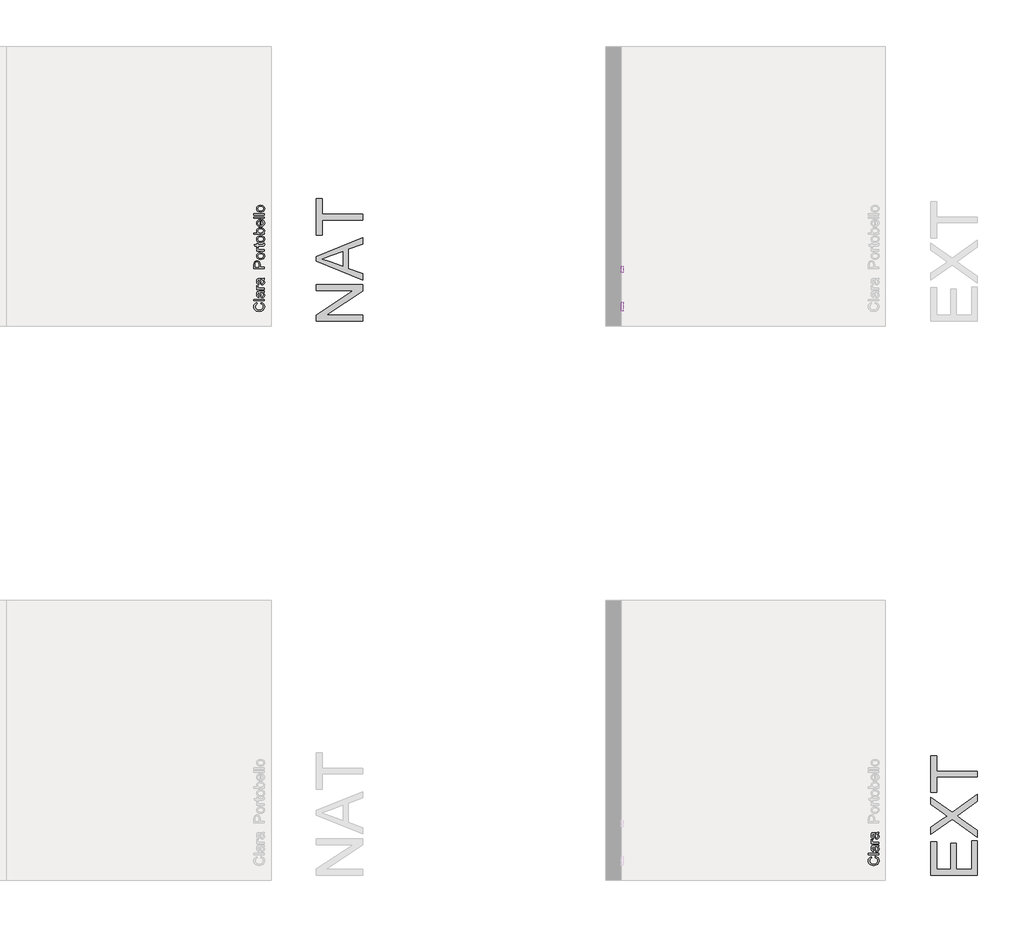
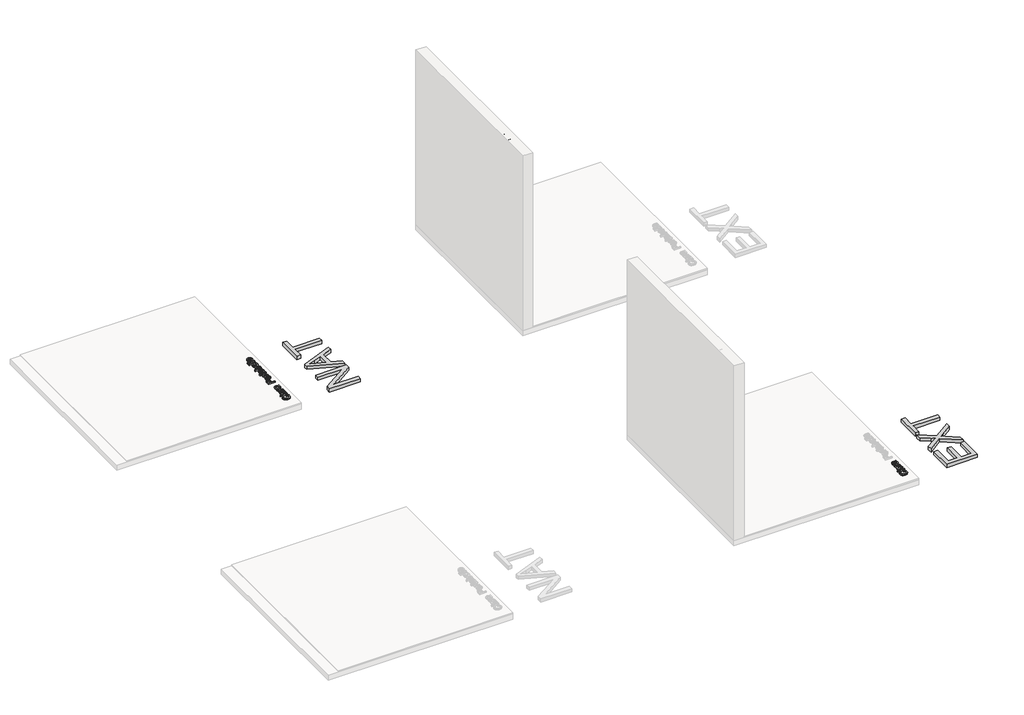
# One storey, part 4 of 6: 7 proxies.
"""IFC4 building model written with IfcOpenShell, lengths in millimetres."""

from ifc_helpers import new_model, si_unit, frame, origin, origin_with_axes, place, context, project, spatial, polyline, outline, extrude, element, save

model = new_model("IFC4")

# Units and contexts
model_context = context("Model", 3, world=origin())
ifc_project = project(units=[si_unit("LENGTHUNIT", "METRE", prefix="MILLI")], contexts=[model_context])

# Site, building, storey
site = spatial("IfcSite", under=ifc_project)
building = spatial("IfcBuilding", under=site)
storey = spatial("IfcBuildingStorey", under=building, Name="PORTOBELLO - SHOWROOM", Elevation=0.0)

# Proxies
placement = place(None, origin())
element("IfcBuildingElementProxy", 1, Name="10mm Arial", ObjectType="10mm Arial", at=placement, inside=storey, context=model_context, shape_type="SweptSolid", body=[
    extrude(outline(polyline([(153092.6805155, -7154.2321856), (153095.9178771, -7141.6751468), (153110.5503834, -7147.4692882), (153121.2404211, -7156.5621049), (153127.7795235, -7168.506007), (153129.9592243, -7182.8534048), (153128.3098867, -7197.4184661), (153123.3618739, -7208.9852892), (153115.2868641, -7217.8512453), (153104.2565356, -7224.3137056), (153077.40115, -7229.5744182), (153062.7533152, -7228.0875618), (153050.1043059, -7223.6269926), (153039.8557267, -7216.4257025), (153032.409182, -7206.7166835), (153027.8750364, -7195.2019771), (153026.3636545, -7182.5836247), (153028.3195604, -7168.815641), (153034.1872783, -7157.4327589), (153043.6050573, -7148.7905977), (153056.211147, -7143.2447766), (153059.2032539, -7155.8018154), (153043.7644729, -7166.1025113), (153038.9206933, -7183.074134), (153044.2917704, -7202.7190325), (153058.7127446, -7213.816806), (153077.3766245, -7217.0173794), (153099.0080858, -7213.2281949), (153112.8281861, -7201.4314455), (153117.4021856, -7184.1042036), (153115.8448185, -7173.6226324), (153111.1727171, -7164.8885007), (153103.4349325, -7158.2942159), (153092.6805155, -7154.2321856)])), frame((0.0, 0.0, 17.0), z_axis=(0.0, 0.0, 1.0), x_axis=(1.0, 0.0, 0.0)), (0.0, 0.0, 1.0), 20.0),
    extrude(outline(polyline([(153128.3895945, -7125.9788483), (153027.9332844, -7125.9788483), (153027.9332844, -7113.4218096), (153128.3895945, -7113.4218096), (153128.3895945, -7125.9788483)])), frame((0.0, 0.0, 17.0), z_axis=(0.0, 0.0, 1.0), x_axis=(1.0, 0.0, 0.0)), (0.0, 0.0, 1.0), 20.0),
    extrude(outline(polyline([(153118.9718154, -7047.497356), (153127.4821522, -7059.6742501), (153129.9592243, -7073.1264684), (153128.4693023, -7083.6203023), (153123.999536, -7091.3611526), (153117.2121132, -7096.1344215), (153108.7692214, -7097.7255111), (153098.8364076, -7095.3220154), (153091.6259205, -7089.0067078), (153087.5056421, -7080.2143281), (153085.6171812, -7069.3495465), (153081.3006991, -7047.5709324), (153078.504796, -7047.497356), (153069.2341697, -7050.9554468), (153065.6044007, -7064.8368607), (153068.0201591, -7077.5410523), (153076.5918096, -7083.5988425), (153075.0221797, -7096.1558813), (153062.7594466, -7090.7234905), (153055.5734849, -7079.7851325), (153053.0473619, -7063.21818), (153055.2791793, -7048.0001281), (153060.8832484, -7039.4039521), (153069.4058479, -7035.5534539), (153080.3932569, -7034.9403173), (153096.0159789, -7034.9403173), (153117.8313812, -7034.3026551), (153128.3895945, -7031.8010576), (153128.3895945, -7044.3580963), (153118.9718154, -7047.497356)]), holes=[polyline([(153093.8577379, -7047.497356), (153097.7082361, -7067.7553912), (153099.7438498, -7078.5588592), (153103.0547878, -7083.4516897), (153107.8863046, -7085.1684723), (153114.6798588, -7081.4283387), (153117.4021856, -7070.4531925), (153114.397816, -7057.749001), (153107.1260152, -7049.5574952), (153097.4139305, -7047.5709324), (153093.8577379, -7047.497356)])]), frame((0.0, 0.0, 17.0), z_axis=(0.0, 0.0, 1.0), x_axis=(1.0, 0.0, 0.0)), (0.0, 0.0, 1.0), 20.0),
    extrude(outline(polyline([(153128.3895945, -7017.674389), (153054.6169917, -7017.674389), (153054.6169917, -7006.68698), (153065.5308243, -7006.68698), (153055.4753831, -6998.8878817), (153053.0473619, -6991.0397325), (153056.9223856, -6978.4336428), (153068.1795746, -6982.6274975), (153065.6044007, -6991.4566654), (153068.0814728, -6998.5567879), (153074.9486033, -7003.0817365), (153089.6148322, -7005.1173502), (153128.3895945, -7005.1173502), (153128.3895945, -7017.674389)])), frame((0.0, 0.0, 17.0), z_axis=(0.0, 0.0, 1.0), x_axis=(1.0, 0.0, 0.0)), (0.0, 0.0, 1.0), 20.0),
    extrude(outline(polyline([(153118.9718154, -6923.4965982), (153127.4821522, -6935.6734922), (153129.9592243, -6949.1257105), (153128.4693023, -6959.6195444), (153123.999536, -6967.3603947), (153117.2121132, -6972.1336636), (153108.7692214, -6973.7247533), (153098.8364076, -6971.3212576), (153091.6259205, -6965.00595), (153087.5056421, -6956.2135703), (153085.6171812, -6945.3487887), (153081.3006991, -6923.5701746), (153078.504796, -6923.4965982), (153069.2341697, -6926.9546889), (153065.6044007, -6940.8361029), (153068.0201591, -6953.5402945), (153076.5918096, -6959.5980846), (153075.0221797, -6972.1551234), (153062.7594466, -6966.7227326), (153055.5734849, -6955.7843746), (153053.0473619, -6939.2174221), (153055.2791793, -6923.9993702), (153060.8832484, -6915.4031943), (153069.4058479, -6911.5526961), (153080.3932569, -6910.9395594), (153096.0159789, -6910.9395594), (153117.8313812, -6910.3018973), (153128.3895945, -6907.8002997), (153128.3895945, -6920.3573385), (153118.9718154, -6923.4965982)]), holes=[polyline([(153093.8577379, -6923.4965982), (153097.7082361, -6943.7546334), (153099.7438498, -6954.5581013), (153103.0547878, -6959.4509319), (153107.8863046, -6961.1677145), (153114.6798588, -6957.4275809), (153117.4021856, -6946.4524347), (153114.397816, -6933.7482431), (153107.1260152, -6925.5567374), (153097.4139305, -6923.5701746), (153093.8577379, -6923.4965982)])]), frame((0.0, 0.0, 17.0), z_axis=(0.0, 0.0, 1.0), x_axis=(1.0, 0.0, 0.0)), (0.0, 0.0, 1.0), 20.0),
])
element("IfcBuildingElementProxy", 2, Name="10mm Arial", ObjectType="10mm Arial", at=placement, inside=storey, context=model_context, shape_type="SweptSolid", body=[
    extrude(outline(polyline([(-1802.1748639, 2563.7375666), (-1789.6178251, 2560.5002051), (-1795.4119666, 2545.8676987), (-1804.5047832, 2535.1776611), (-1816.4486853, 2528.6385586), (-1830.7960831, 2526.4588578), (-1845.3611445, 2528.1081954), (-1856.9279675, 2533.0562082), (-1865.7939236, 2541.131218), (-1872.256384, 2552.1615465), (-1877.5170965, 2579.0169322), (-1876.0302401, 2593.664767), (-1871.5696709, 2606.3137762), (-1864.3683809, 2616.5623555), (-1854.6593619, 2624.0089002), (-1843.1446554, 2628.5430458), (-1830.526303, 2630.0544276), (-1816.7583193, 2628.0985217), (-1805.3754373, 2622.2308039), (-1796.7332761, 2612.8130248), (-1791.187455, 2600.2069351), (-1803.7444938, 2597.2148282), (-1814.0451896, 2612.6536093), (-1831.0168123, 2617.4973889), (-1850.6617109, 2612.1263117), (-1861.7594844, 2597.7053375), (-1864.9600577, 2579.0414576), (-1861.1708732, 2557.4099963), (-1849.3741239, 2543.589896), (-1832.0468819, 2539.0158966), (-1821.5653107, 2540.5732637), (-1812.831179, 2545.245365), (-1806.2368943, 2552.9831497), (-1802.1748639, 2563.7375666)])), frame((150642.4628922, 0.0, 0.0), z_axis=(1.0, 0.0, 0.0), x_axis=(0.0, 1.0, 0.0)), (0.0, 0.0, 1.0), 20.0),
    extrude(outline(polyline([(150662.4628922, -1761.3644879), (150662.4628922, -1773.9215267), (150642.4628922, -1773.9215267), (150642.4628922, -1761.3644879), (150662.4628922, -1761.3644879)])), frame((0.0, 0.0, 2528.0284876), z_axis=(0.0, 0.0, 1.0), x_axis=(1.0, 0.0, 0.0)), (0.0, 0.0, 1.0), 100.4563101),
    extrude(outline(polyline([(-1695.4400344, 2537.4462667), (-1707.6169284, 2528.9359299), (-1721.0691467, 2526.4588578), (-1731.5629806, 2527.9487799), (-1739.3038309, 2532.4185461), (-1744.0770998, 2539.2059689), (-1745.6681894, 2547.6488607), (-1743.2646937, 2557.5816746), (-1736.9493862, 2564.7921617), (-1728.1570065, 2568.91244), (-1717.2922249, 2570.800901), (-1695.5136108, 2575.117383), (-1695.4400344, 2577.9132862), (-1698.8981251, 2587.1839125), (-1712.7795391, 2590.8136815), (-1725.4837306, 2588.3979231), (-1731.5415208, 2579.8262726), (-1744.0985596, 2581.3959024), (-1738.6661688, 2593.6586356), (-1727.7278108, 2600.8445972), (-1711.1608583, 2603.3707203), (-1695.9428064, 2601.1389028), (-1687.3466305, 2595.5348338), (-1683.4961323, 2587.0122342), (-1682.8829956, 2576.0248253), (-1682.8829956, 2560.4021032), (-1682.2453335, 2538.5867009), (-1679.7437359, 2528.0284876), (-1692.3007747, 2528.0284876), (-1695.4400344, 2537.4462667)]), holes=[polyline([(-1695.4400344, 2562.5603443), (-1715.6980696, 2558.709846), (-1726.5015375, 2556.6742323), (-1731.394368, 2553.3632944), (-1733.1111507, 2548.5317775), (-1729.3710171, 2541.7382233), (-1718.3958709, 2539.0158966), (-1705.6916793, 2542.0202662), (-1697.5001735, 2549.292067), (-1695.5136108, 2559.0041516), (-1695.4400344, 2562.5603443)])]), frame((150642.4628922, 0.0, 0.0), z_axis=(1.0, 0.0, 0.0), x_axis=(0.0, 1.0, 0.0)), (0.0, 0.0, 1.0), 20.0),
    extrude(outline(polyline([(-1665.6170673, 2528.0284876), (-1665.6170673, 2601.8010904), (-1654.6296584, 2601.8010904), (-1654.6296584, 2590.8872579), (-1646.8305601, 2600.9426991), (-1638.9824108, 2603.3707203), (-1626.3763211, 2599.4956966), (-1630.5701759, 2588.2385075), (-1639.3993438, 2590.8136815), (-1646.4994663, 2588.3366094), (-1651.0244148, 2581.4694788), (-1653.0600285, 2566.8032499), (-1653.0600285, 2528.0284876), (-1665.6170673, 2528.0284876)])), frame((150642.4628922, 0.0, 0.0), z_axis=(1.0, 0.0, 0.0), x_axis=(0.0, 1.0, 0.0)), (0.0, 0.0, 1.0), 20.0),
    extrude(outline(polyline([(-1571.4392765, 2537.4462667), (-1583.6161706, 2528.9359299), (-1597.0683889, 2526.4588578), (-1607.5622228, 2527.9487799), (-1615.3030731, 2532.4185461), (-1620.076342, 2539.2059689), (-1621.6674316, 2547.6488607), (-1619.2639359, 2557.5816746), (-1612.9486283, 2564.7921617), (-1604.1562486, 2568.91244), (-1593.291467, 2570.800901), (-1571.5128529, 2575.117383), (-1571.4392765, 2577.9132862), (-1574.8973673, 2587.1839125), (-1588.7787812, 2590.8136815), (-1601.4829728, 2588.3979231), (-1607.540763, 2579.8262726), (-1620.0978018, 2581.3959024), (-1614.665411, 2593.6586356), (-1603.727053, 2600.8445972), (-1587.1601005, 2603.3707203), (-1571.9420486, 2601.1389028), (-1563.3458726, 2595.5348338), (-1559.4953744, 2587.0122342), (-1558.8822378, 2576.0248253), (-1558.8822378, 2560.4021032), (-1558.2445756, 2538.5867009), (-1555.7429781, 2528.0284876), (-1568.3000168, 2528.0284876), (-1571.4392765, 2537.4462667)]), holes=[polyline([(-1571.4392765, 2562.5603443), (-1591.6973117, 2558.709846), (-1602.5007797, 2556.6742323), (-1607.3936102, 2553.3632944), (-1609.1103928, 2548.5317775), (-1605.3702592, 2541.7382233), (-1594.395113, 2539.0158966), (-1581.6909215, 2542.0202662), (-1573.4994157, 2549.292067), (-1571.5128529, 2559.0041516), (-1571.4392765, 2562.5603443)])]), frame((150642.4628922, 0.0, 0.0), z_axis=(1.0, 0.0, 0.0), x_axis=(0.0, 1.0, 0.0)), (0.0, 0.0, 1.0), 20.0),
])
element("IfcBuildingElementProxy", 3, Name="10mm Arial", ObjectType="10mm Arial", at=placement, inside=storey, context=model_context, shape_type="SweptSolid", body=[
    extrude(outline(polyline([(147162.6805155, -1804.2321856), (147165.9178771, -1791.6751468), (147180.5503834, -1797.4692882), (147191.2404211, -1806.5621049), (147197.7795235, -1818.506007), (147199.9592243, -1832.8534048), (147198.3098867, -1847.4184661), (147193.3618739, -1858.9852892), (147185.2868641, -1867.8512453), (147174.2565356, -1874.3137056), (147147.40115, -1879.5744182), (147132.7533152, -1878.0875618), (147120.1043059, -1873.6269926), (147109.8557267, -1866.4257025), (147102.409182, -1856.7166835), (147097.8750364, -1845.2019771), (147096.3636545, -1832.5836247), (147098.3195604, -1818.815641), (147104.1872783, -1807.4327589), (147113.6050573, -1798.7905977), (147126.211147, -1793.2447766), (147129.2032539, -1805.8018154), (147113.7644729, -1816.1025113), (147108.9206933, -1833.074134), (147114.2917704, -1852.7190325), (147128.7127446, -1863.816806), (147147.3766245, -1867.0173794), (147169.0080858, -1863.2281949), (147182.8281861, -1851.4314455), (147187.4021856, -1834.1042036), (147185.8448185, -1823.6226324), (147181.1727171, -1814.8885007), (147173.4349325, -1808.2942159), (147162.6805155, -1804.2321856)])), frame((0.0, 0.0, 17.0), z_axis=(0.0, 0.0, 1.0), x_axis=(1.0, 0.0, 0.0)), (0.0, 0.0, 1.0), 20.0),
    extrude(outline(polyline([(147198.3895945, -1775.9788483), (147097.9332844, -1775.9788483), (147097.9332844, -1763.4218096), (147198.3895945, -1763.4218096), (147198.3895945, -1775.9788483)])), frame((0.0, 0.0, 17.0), z_axis=(0.0, 0.0, 1.0), x_axis=(1.0, 0.0, 0.0)), (0.0, 0.0, 1.0), 20.0),
    extrude(outline(polyline([(147188.9718154, -1697.497356), (147197.4821522, -1709.6742501), (147199.9592243, -1723.1264684), (147198.4693023, -1733.6203023), (147193.999536, -1741.3611526), (147187.2121132, -1746.1344215), (147178.7692214, -1747.7255111), (147168.8364076, -1745.3220154), (147161.6259205, -1739.0067078), (147157.5056421, -1730.2143281), (147155.6171812, -1719.3495465), (147151.3006991, -1697.5709324), (147148.504796, -1697.497356), (147139.2341697, -1700.9554468), (147135.6044007, -1714.8368607), (147138.0201591, -1727.5410523), (147146.5918096, -1733.5988425), (147145.0221797, -1746.1558813), (147132.7594466, -1740.7234905), (147125.5734849, -1729.7851325), (147123.0473619, -1713.21818), (147125.2791793, -1698.0001281), (147130.8832484, -1689.4039521), (147139.4058479, -1685.5534539), (147150.3932569, -1684.9403173), (147166.0159789, -1684.9403173), (147187.8313812, -1684.3026551), (147198.3895945, -1681.8010576), (147198.3895945, -1694.3580963), (147188.9718154, -1697.497356)]), holes=[polyline([(147163.8577379, -1697.497356), (147167.7082361, -1717.7553912), (147169.7438498, -1728.5588592), (147173.0547878, -1733.4516897), (147177.8863046, -1735.1684723), (147184.6798588, -1731.4283387), (147187.4021856, -1720.4531925), (147184.397816, -1707.749001), (147177.1260152, -1699.5574952), (147167.4139305, -1697.5709324), (147163.8577379, -1697.497356)])]), frame((0.0, 0.0, 17.0), z_axis=(0.0, 0.0, 1.0), x_axis=(1.0, 0.0, 0.0)), (0.0, 0.0, 1.0), 20.0),
    extrude(outline(polyline([(147198.3895945, -1667.674389), (147124.6169917, -1667.674389), (147124.6169917, -1656.68698), (147135.5308243, -1656.68698), (147125.4753831, -1648.8878817), (147123.0473619, -1641.0397325), (147126.9223856, -1628.4336428), (147138.1795746, -1632.6274975), (147135.6044007, -1641.4566654), (147138.0814728, -1648.5567879), (147144.9486033, -1653.0817365), (147159.6148322, -1655.1173502), (147198.3895945, -1655.1173502), (147198.3895945, -1667.674389)])), frame((0.0, 0.0, 17.0), z_axis=(0.0, 0.0, 1.0), x_axis=(1.0, 0.0, 0.0)), (0.0, 0.0, 1.0), 20.0),
    extrude(outline(polyline([(147188.9718154, -1573.4965982), (147197.4821522, -1585.6734922), (147199.9592243, -1599.1257105), (147198.4693023, -1609.6195444), (147193.999536, -1617.3603947), (147187.2121132, -1622.1336636), (147178.7692214, -1623.7247533), (147168.8364076, -1621.3212576), (147161.6259205, -1615.00595), (147157.5056421, -1606.2135703), (147155.6171812, -1595.3487887), (147151.3006991, -1573.5701746), (147148.504796, -1573.4965982), (147139.2341697, -1576.9546889), (147135.6044007, -1590.8361029), (147138.0201591, -1603.5402945), (147146.5918096, -1609.5980846), (147145.0221797, -1622.1551234), (147132.7594466, -1616.7227326), (147125.5734849, -1605.7843746), (147123.0473619, -1589.2174221), (147125.2791793, -1573.9993702), (147130.8832484, -1565.4031943), (147139.4058479, -1561.5526961), (147150.3932569, -1560.9395594), (147166.0159789, -1560.9395594), (147187.8313812, -1560.3018973), (147198.3895945, -1557.8002997), (147198.3895945, -1570.3573385), (147188.9718154, -1573.4965982)]), holes=[polyline([(147163.8577379, -1573.4965982), (147167.7082361, -1593.7546334), (147169.7438498, -1604.5581013), (147173.0547878, -1609.4509319), (147177.8863046, -1611.1677145), (147184.6798588, -1607.4275809), (147187.4021856, -1596.4524347), (147184.397816, -1583.7482431), (147177.1260152, -1575.5567374), (147167.4139305, -1573.5701746), (147163.8577379, -1573.4965982)])]), frame((0.0, 0.0, 17.0), z_axis=(0.0, 0.0, 1.0), x_axis=(1.0, 0.0, 0.0)), (0.0, 0.0, 1.0), 20.0),
])
element("IfcBuildingElementProxy", 4, Name="10mm Arial", ObjectType="10mm Arial", at=placement, inside=storey, context=model_context, shape_type="SweptSolid", body=[
    extrude(outline(polyline([(147198.3895945, -1464.8655286), (147097.9332844, -1464.8655286), (147097.9332844, -1427.6358707), (147098.8897775, -1412.6262853), (147103.5864043, -1400.4248658), (147113.298489, -1392.5154029), (147126.995962, -1389.523296), (147138.8356309, -1391.5435813), (147148.7009997, -1397.6044372), (147155.3596638, -1408.9382683), (147157.5792185, -1426.7774794), (147157.5792185, -1452.3084899), (147198.3895945, -1452.3084899), (147198.3895945, -1464.8655286)]), holes=[polyline([(147145.0221797, -1452.3084899), (147145.0221797, -1426.0417154), (147140.4113921, -1407.5495138), (147134.8625053, -1403.4476295), (147127.4374204, -1402.0803348), (147117.0386226, -1405.3054336), (147111.3487144, -1413.7789822), (147110.4903231, -1426.336021), (147110.4903231, -1452.3084899), (147145.0221797, -1452.3084899)])]), frame((0.0, 0.0, 17.0), z_axis=(0.0, 0.0, 1.0), x_axis=(1.0, 0.0, 0.0)), (0.0, 0.0, 1.0), 20.0),
    extrude(outline(polyline([(147161.5032931, -1376.9662573), (147143.7161987, -1374.2500619), (147131.2143422, -1366.1014757), (147125.089107, -1356.0337717), (147123.0473619, -1343.979505), (147125.533631, -1330.7878698), (147132.9924385, -1320.2511163), (147144.8351731, -1313.3441319), (147160.4732235, -1311.0418037), (147182.8159234, -1315.1130311), (147195.4588013, -1326.9710941), (147199.9592243, -1343.979505), (147197.4821522, -1357.3305558), (147190.0509359, -1367.8550465), (147177.959881, -1374.6884546), (147161.5032931, -1376.9662573)]), holes=[polyline([(147161.4787677, -1364.4092185), (147172.8432556, -1362.9560846), (147180.9397252, -1358.596683), (147185.7865705, -1352.0361207), (147187.4021856, -1343.979505), (147185.7773734, -1335.9596775), (147180.902937, -1329.411378), (147172.6991685, -1325.0519764), (147161.0863602, -1323.5988425), (147150.052966, -1325.0611734), (147142.066861, -1329.4481662), (147137.2200158, -1336.0056628), (147135.6044007, -1343.979505), (147137.2138844, -1352.0361207), (147142.0423356, -1358.596683), (147150.1204111, -1362.9560846), (147161.4787677, -1364.4092185)])]), frame((0.0, 0.0, 17.0), z_axis=(0.0, 0.0, 1.0), x_axis=(1.0, 0.0, 0.0)), (0.0, 0.0, 1.0), 20.0),
    extrude(outline(polyline([(147198.3895945, -1296.9151351), (147124.6169917, -1296.9151351), (147124.6169917, -1285.9277262), (147135.5308243, -1285.9277262), (147125.4753831, -1278.1286279), (147123.0473619, -1270.2804787), (147126.9223856, -1257.674389), (147138.1795746, -1261.8682437), (147135.6044007, -1270.6974116), (147138.0814728, -1277.7975341), (147144.9486033, -1282.3224826), (147159.6148322, -1284.3580963), (147198.3895945, -1284.3580963), (147198.3895945, -1296.9151351)])), frame((0.0, 0.0, 17.0), z_axis=(0.0, 0.0, 1.0), x_axis=(1.0, 0.0, 0.0)), (0.0, 0.0, 1.0), 20.0),
    extrude(outline(polyline([(147187.9172204, -1223.1425323), (147198.7574765, -1221.5729025), (147199.9592243, -1230.9661561), (147197.8745597, -1241.4875812), (147192.4053807, -1246.736031), (147178.1560848, -1248.2566099), (147137.1740305, -1248.2566099), (147137.1740305, -1257.674389), (147126.9223856, -1257.674389), (147124.6169917, -1257.674389), (147124.6169917, -1248.2566099), (147106.6888758, -1248.2566099), (147099.3067105, -1235.6995711), (147124.6169917, -1235.6995711), (147124.6169917, -1223.1425323), (147137.1740305, -1223.1425323), (147137.1740305, -1235.6995711), (147177.7882028, -1235.6995711), (147184.2629259, -1235.0373835), (147186.556057, -1232.8914052), (147187.4021856, -1228.6117113), (147187.9172204, -1223.1425323)])), frame((0.0, 0.0, 17.0), z_axis=(0.0, 0.0, 1.0), x_axis=(1.0, 0.0, 0.0)), (0.0, 0.0, 1.0), 20.0),
    extrude(outline(polyline([(147161.5032931, -1213.7247533), (147143.7161987, -1211.0085579), (147131.2143422, -1202.8599717), (147125.089107, -1192.7922677), (147123.0473619, -1180.738001), (147125.533631, -1167.5463658), (147132.9924385, -1157.0096123), (147144.8351731, -1150.1026279), (147160.4732235, -1147.8002997), (147182.8159234, -1151.8715271), (147195.4588013, -1163.7295901), (147199.9592243, -1180.738001), (147197.4821522, -1194.0890518), (147190.0509359, -1204.6135425), (147177.959881, -1211.4469506), (147161.5032931, -1213.7247533)]), holes=[polyline([(147161.4787677, -1201.1677145), (147172.8432556, -1199.7145806), (147180.9397252, -1195.355179), (147185.7865705, -1188.7946167), (147187.4021856, -1180.738001), (147185.7773734, -1172.7181735), (147180.902937, -1166.169874), (147172.6991685, -1161.8104724), (147161.0863602, -1160.3573385), (147150.052966, -1161.8196694), (147142.066861, -1166.2066622), (147137.2200158, -1172.7641588), (147135.6044007, -1180.738001), (147137.2138844, -1188.7946167), (147142.0423356, -1195.355179), (147150.1204111, -1199.7145806), (147161.4787677, -1201.1677145)])]), frame((0.0, 0.0, 17.0), z_axis=(0.0, 0.0, 1.0), x_axis=(1.0, 0.0, 0.0)), (0.0, 0.0, 1.0), 20.0),
    extrude(outline(polyline([(147198.3895945, -1121.1165923), (147198.3895945, -1133.6736311), (147097.9332844, -1133.6736311), (147097.9332844, -1121.1165923), (147135.1874677, -1121.1165923), (147126.0823884, -1112.3242127), (147123.0473619, -1101.3981174), (147125.7819514, -1088.8165532), (147133.4706851, -1079.0554176), (147145.4268499, -1073.058941), (147160.3996471, -1070.8884373), (147177.1628034, -1073.1355831), (147189.634003, -1079.8770207), (147197.377919, -1089.7699807), (147199.9592243, -1101.4716938), (147196.6298923, -1112.6369124), (147186.6418961, -1121.1165923), (147198.3895945, -1121.1165923)]), holes=[polyline([(147160.9882583, -1121.1165923), (147178.5484922, -1117.6830271), (147185.1887622, -1111.1040707), (147187.4021856, -1102.5508143), (147185.7712421, -1095.303539), (147180.8784115, -1089.1108588), (147172.7543508, -1084.8618217), (147161.4297167, -1083.445476), (147149.9395357, -1084.8035737), (147141.9074455, -1088.8778668), (147137.1801619, -1094.877409), (147135.6044007, -1102.0112541), (147137.2353442, -1109.2585294), (147142.1281747, -1115.4512096), (147150.1050826, -1119.7002467), (147160.9882583, -1121.1165923)])]), frame((0.0, 0.0, 17.0), z_axis=(0.0, 0.0, 1.0), x_axis=(1.0, 0.0, 0.0)), (0.0, 0.0, 1.0), 20.0),
    extrude(outline(polyline([(147176.4147767, -1005.1111365), (147177.9844065, -992.7993524), (147187.2611641, -997.2353962), (147194.1957398, -1004.3140589), (147198.5183532, -1013.8759251), (147199.9592243, -1025.7615792), (147197.4729552, -1040.4952531), (147190.0141477, -1051.8321499), (147178.06718, -1059.0610311), (147162.1164298, -1061.4706582), (147145.629185, -1059.0365057), (147133.2990068, -1051.7340481), (147125.6102731, -1040.5504354), (147123.0473619, -1026.4728177), (147125.6041418, -1012.8335927), (147133.2744814, -1001.9350886), (147145.5801341, -994.7889809), (147162.0428534, -992.406945), (147165.4273677, -992.4805214), (147165.4273677, -1048.9136194), (147174.8267527, -1046.74005), (147181.7368029, -1041.6908696), (147185.9858399, -1034.4037404), (147187.4021856, -1025.5163245), (147184.7779607, -1013.2045404), (147176.4147767, -1005.1111365)]), holes=[polyline([(147152.870329, -1048.9136194), (147152.870329, -1004.9639837), (147141.4905126, -1009.9917043), (147137.0759286, -1017.312556), (147135.6044007, -1026.5218687), (147140.3010275, -1041.9851752), (147145.7916662, -1046.8504146), (147152.870329, -1048.9136194)])]), frame((0.0, 0.0, 17.0), z_axis=(0.0, 0.0, 1.0), x_axis=(1.0, 0.0, 0.0)), (0.0, 0.0, 1.0), 20.0),
    extrude(outline(polyline([(147198.3895945, -979.8499062), (147097.9332844, -979.8499062), (147097.9332844, -967.2928674), (147198.3895945, -967.2928674), (147198.3895945, -979.8499062)])), frame((0.0, 0.0, 17.0), z_axis=(0.0, 0.0, 1.0), x_axis=(1.0, 0.0, 0.0)), (0.0, 0.0, 1.0), 20.0),
    extrude(outline(polyline([(147198.3895945, -948.4573093), (147097.9332844, -948.4573093), (147097.9332844, -935.9002705), (147198.3895945, -935.9002705), (147198.3895945, -948.4573093)])), frame((0.0, 0.0, 17.0), z_axis=(0.0, 0.0, 1.0), x_axis=(1.0, 0.0, 0.0)), (0.0, 0.0, 1.0), 20.0),
    extrude(outline(polyline([(147161.5032931, -920.203972), (147143.7161987, -917.4877766), (147131.2143422, -909.3391905), (147125.089107, -899.2714865), (147123.0473619, -887.2172198), (147125.533631, -874.0255846), (147132.9924385, -863.4888311), (147144.8351731, -856.5818467), (147160.4732235, -854.2795185), (147182.8159234, -858.3507459), (147195.4588013, -870.2088089), (147199.9592243, -887.2172198), (147197.4821522, -900.5682706), (147190.0509359, -911.0927613), (147177.959881, -917.9261694), (147161.5032931, -920.203972)]), holes=[polyline([(147161.4787677, -907.6469333), (147172.8432556, -906.1937994), (147180.9397252, -901.8343978), (147185.7865705, -895.2738355), (147187.4021856, -887.2172198), (147185.7773734, -879.1973923), (147180.902937, -872.6490928), (147172.6991685, -868.2896912), (147161.0863602, -866.8365573), (147150.052966, -868.2988882), (147142.066861, -872.685881), (147137.2200158, -879.2433776), (147135.6044007, -887.2172198), (147137.2138844, -895.2738355), (147142.0423356, -901.8343978), (147150.1204111, -906.1937994), (147161.4787677, -907.6469333)])]), frame((0.0, 0.0, 17.0), z_axis=(0.0, 0.0, 1.0), x_axis=(1.0, 0.0, 0.0)), (0.0, 0.0, 1.0), 20.0),
])
element("IfcBuildingElementProxy", 5, Name="10mm Arial Narrow", ObjectType="10mm Arial Narrow", at=placement, inside=storey, context=model_context, shape_type="SweptSolid", body=[
    extrude(outline(polyline([(-1505.6731479, 2528.0284876), (-1505.6731479, 2628.7470914), (-1474.3762632, 2628.7470914), (-1458.0805617, 2626.8687707), (-1446.6075755, 2617.3883275), (-1442.3178971, 2600.3692187), (-1444.1042055, 2588.2933931), (-1449.4631307, 2578.6669994), (-1459.2069195, 2572.365741), (-1474.1478188, 2570.2653215), (-1495.9261862, 2570.2653215), (-1495.9261862, 2528.0284876), (-1505.6731479, 2528.0284876)]), holes=[polyline([(-1495.9261862, 2581.6367767), (-1472.9548313, 2581.6367767), (-1457.0906359, 2586.1675909), (-1452.0648588, 2599.8361817), (-1454.5396732, 2610.0019581), (-1460.5173021, 2615.801908), (-1473.1832757, 2617.3756361), (-1495.9261862, 2617.3756361), (-1495.9261862, 2581.6367767)])]), frame((150642.4628922, 0.0, 0.0), z_axis=(1.0, 0.0, 0.0), x_axis=(0.0, 1.0, 0.0)), (0.0, 0.0, 1.0), 20.0),
    extrude(outline(polyline([(-1434.1954291, 2564.5795938), (-1432.2409602, 2581.1703694), (-1426.3775536, 2593.1224542), (-1417.5189869, 2600.3470088), (-1406.5790377, 2602.7551937), (-1395.7660021, 2600.3470088), (-1386.8820527, 2593.1224542), (-1380.9424979, 2581.3607397), (-1378.9626464, 2565.3410752), (-1380.9075967, 2548.1791886), (-1386.7424478, 2536.0367335), (-1395.591496, 2528.8121789), (-1406.5790377, 2526.403994), (-1417.4396659, 2528.8185246), (-1426.3140968, 2536.0621162), (-1432.225096, 2548.0205467), (-1434.1954291, 2564.5795938)]), holes=[polyline([(-1424.4484674, 2564.6049766), (-1423.1444306, 2552.0532252), (-1419.23232, 2543.1819671), (-1413.3911232, 2537.9087085), (-1406.2998279, 2536.1509557), (-1399.5797547, 2537.9245727), (-1393.8876814, 2543.2454239), (-1390.0041264, 2552.1325461), (-1388.709608, 2564.6049766), (-1390.0136449, 2577.1186539), (-1393.9257555, 2585.9772206), (-1399.7669522, 2591.2504792), (-1406.8582476, 2593.008232), (-1413.6259133, 2591.2409606), (-1419.3084681, 2585.9391465), (-1423.1634676, 2577.0710613), (-1424.4484674, 2564.6049766)])]), frame((150642.4628922, 0.0, 0.0), z_axis=(1.0, 0.0, 0.0), x_axis=(0.0, 1.0, 0.0)), (0.0, 0.0, 1.0), 20.0),
    extrude(outline(polyline([(-1307.4849276, 2536.1509557), (-1305.860434, 2526.403994), (-1313.2214206, 2526.403994), (-1321.4961849, 2528.5234505), (-1325.8112461, 2534.3234004), (-1326.9788509, 2548.9692256), (-1326.9788509, 2591.3837384), (-1335.1013189, 2591.3837384), (-1335.1013189, 2594.6327256), (-1336.7258125, 2589.7592448), (-1344.2898609, 2591.3837384), (-1350.3690206, 2589.0612202), (-1354.2398843, 2582.5759371), (-1356.2197358, 2567.1686305), (-1356.2197358, 2528.0284876), (-1365.9666975, 2528.0284876), (-1365.9666975, 2601.1307001), (-1356.2197358, 2601.1307001), (-1356.2197358, 2591.4345038), (-1349.9755885, 2600.5215149), (-1343.5791449, 2602.7551937), (-1335.1013189, 2601.1307001), (-1326.9788509, 2601.1307001), (-1326.9788509, 2617.3756361), (-1317.2318892, 2625.4981042), (-1317.2318892, 2601.1307001), (-1307.4849276, 2601.1307001), (-1307.4849276, 2591.3837384), (-1317.2318892, 2591.3837384), (-1317.2318892, 2546.7355469), (-1316.368877, 2538.7399924), (-1311.7492233, 2536.1509557), (-1307.4849276, 2536.1509557)])), frame((150642.4628922, 0.0, 0.0), z_axis=(1.0, 0.0, 0.0), x_axis=(0.0, 1.0, 0.0)), (0.0, 0.0, 1.0), 20.0),
    extrude(outline(polyline([(-1300.9869531, 2564.5795938), (-1299.0324843, 2581.1703694), (-1293.1690776, 2593.1224542), (-1284.3105109, 2600.3470088), (-1273.3705618, 2602.7551937), (-1262.5575262, 2600.3470088), (-1253.6735768, 2593.1224542), (-1247.734022, 2581.3607397), (-1245.7541704, 2565.3410752), (-1247.6991208, 2548.1791886), (-1253.5339719, 2536.0367335), (-1262.38302, 2528.8121789), (-1273.3705618, 2526.403994), (-1284.23119, 2528.8185246), (-1293.1056209, 2536.0621162), (-1299.0166201, 2548.0205467), (-1300.9869531, 2564.5795938)]), holes=[polyline([(-1291.2399915, 2564.6049766), (-1289.9359546, 2552.0532252), (-1286.023844, 2543.1819671), (-1280.1826473, 2537.9087085), (-1273.0913519, 2536.1509557), (-1266.3712788, 2537.9245727), (-1260.6792055, 2543.2454239), (-1256.7956504, 2552.1325461), (-1255.5011321, 2564.6049766), (-1256.8051689, 2577.1186539), (-1260.7172795, 2585.9772206), (-1266.5584763, 2591.2504792), (-1273.6497716, 2593.008232), (-1280.4174374, 2591.2409606), (-1286.0999922, 2585.9391465), (-1289.9549917, 2577.0710613), (-1291.2399915, 2564.6049766)])]), frame((150642.4628922, 0.0, 0.0), z_axis=(1.0, 0.0, 0.0), x_axis=(0.0, 1.0, 0.0)), (0.0, 0.0, 1.0), 20.0),
    extrude(outline(polyline([(-1223.0112599, 2528.0284876), (-1232.7582216, 2528.0284876), (-1232.7582216, 2628.7470914), (-1223.0112599, 2628.7470914), (-1223.0112599, 2593.3382073), (-1215.6121992, 2600.4199841), (-1206.4109658, 2602.7551937), (-1193.5292392, 2598.5543547), (-1184.2518577, 2585.8249243), (-1180.7744261, 2565.1380135), (-1182.7066851, 2548.6836701), (-1188.5034621, 2536.480931), (-1196.8765844, 2528.9232283), (-1206.5378794, 2526.403994), (-1215.8787177, 2529.0184134), (-1223.0112599, 2536.7855235), (-1223.0112599, 2528.0284876)]), holes=[polyline([(-1223.0112599, 2565.1380135), (-1220.9298775, 2547.8904603), (-1215.0410881, 2539.1588071), (-1206.5886448, 2536.1509557), (-1200.6459172, 2537.9404369), (-1195.4075599, 2543.3088807), (-1190.5213877, 2564.7318901), (-1195.2298809, 2586.1675909), (-1200.4745839, 2591.2980717), (-1206.7917065, 2593.008232), (-1212.7693354, 2591.2187508), (-1218.0616309, 2585.850307), (-1223.0112599, 2565.1380135)])]), frame((150642.4628922, 0.0, 0.0), z_axis=(1.0, 0.0, 0.0), x_axis=(0.0, 1.0, 0.0)), (0.0, 0.0, 1.0), 20.0),
    extrude(outline(polyline([(-1128.7906306, 2550.7713982), (-1119.0436689, 2549.1469046), (-1122.7431993, 2539.260338), (-1128.5621862, 2532.1404871), (-1136.2658395, 2527.8381173), (-1145.6193691, 2526.403994), (-1157.2129231, 2528.8185246), (-1166.3570453, 2536.0621162), (-1172.2966001, 2547.8682504), (-1174.2764516, 2563.9704087), (-1172.2870815, 2580.6373324), (-1166.3189712, 2592.8178617), (-1157.3049354, 2600.2708607), (-1146.1777887, 2602.7551937), (-1135.4948396, 2600.3565273), (-1126.7473222, 2593.1605283), (-1120.9124712, 2581.4210237), (-1118.9675208, 2565.3918407), (-1119.0436689, 2562.1428534), (-1164.52949, 2562.1428534), (-1158.5264784, 2542.6996956), (-1152.5964422, 2537.7881407), (-1145.4924555, 2536.1509557), (-1135.3139877, 2539.8060663), (-1128.7906306, 2550.7713982)]), holes=[polyline([(-1163.8695395, 2571.8898151), (-1128.7906306, 2571.8898151), (-1133.0549263, 2586.1548996), (-1138.8802589, 2591.2948989), (-1146.1016406, 2593.008232), (-1158.3107254, 2587.2971217), (-1163.8695395, 2571.8898151)])]), frame((150642.4628922, 0.0, 0.0), z_axis=(1.0, 0.0, 0.0), x_axis=(0.0, 1.0, 0.0)), (0.0, 0.0, 1.0), 20.0),
    extrude(outline(polyline([(150662.4628922, -1096.3007584), (150662.4628922, -1106.0477201), (150642.4628922, -1106.0477201), (150642.4628922, -1096.3007584), (150662.4628922, -1096.3007584)])), frame((0.0, 0.0, 2528.0284876), z_axis=(0.0, 0.0, 1.0), x_axis=(1.0, 0.0, 0.0)), (0.0, 0.0, 1.0), 100.7186038),
    extrude(outline(polyline([(150662.4628922, -1070.3088607), (150662.4628922, -1080.0558223), (150642.4628922, -1080.0558223), (150642.4628922, -1070.3088607), (150662.4628922, -1070.3088607)])), frame((0.0, 0.0, 2528.0284876), z_axis=(0.0, 0.0, 1.0), x_axis=(1.0, 0.0, 0.0)), (0.0, 0.0, 1.0), 100.7186038),
    extrude(outline(polyline([(-1058.9374054, 2564.5795938), (-1056.9829365, 2581.1703694), (-1051.1195299, 2593.1224542), (-1042.2609632, 2600.3470088), (-1031.3210141, 2602.7551937), (-1020.5079785, 2600.3470088), (-1011.624029, 2593.1224542), (-1005.6844743, 2581.3607397), (-1003.7046227, 2565.3410752), (-1005.6495731, 2548.1791886), (-1011.4844241, 2536.0367335), (-1020.3334723, 2528.8121789), (-1031.3210141, 2526.403994), (-1042.1816422, 2528.8185246), (-1051.0560731, 2536.0621162), (-1056.9670723, 2548.0205467), (-1058.9374054, 2564.5795938)]), holes=[polyline([(-1049.1904438, 2564.6049766), (-1047.8864069, 2552.0532252), (-1043.9742963, 2543.1819671), (-1038.1330996, 2537.9087085), (-1031.0418042, 2536.1509557), (-1024.321731, 2537.9245727), (-1018.6296577, 2543.2454239), (-1014.7461027, 2552.1325461), (-1013.4515844, 2564.6049766), (-1014.7556212, 2577.1186539), (-1018.6677318, 2585.9772206), (-1024.5089285, 2591.2504792), (-1031.6002239, 2593.008232), (-1038.3678897, 2591.2409606), (-1044.0504444, 2585.9391465), (-1047.9054439, 2577.0710613), (-1049.1904438, 2564.6049766)])]), frame((150642.4628922, 0.0, 0.0), z_axis=(1.0, 0.0, 0.0), x_axis=(0.0, 1.0, 0.0)), (0.0, 0.0, 1.0), 20.0),
])
element("IfcBuildingElementProxy", 6, Name="450mm Arial", ObjectType="450mm Arial", at=placement, inside=storey, context=model_context, shape_type="SweptSolid", body=[
    extrude(outline(polyline([(154079.8667023, -7322.473799), (153630.2105594, -7322.473799), (153630.2105594, -6999.2834464), (153686.4175773, -6999.2834464), (153686.4175773, -7266.2667812), (153819.9092447, -7266.2667812), (153819.9092447, -7013.3352008), (153876.1162625, -7013.3352008), (153876.1162625, -7266.2667812), (154023.6596844, -7266.2667812), (154023.6596844, -6992.2575691), (154079.8667023, -6992.2575691), (154079.8667023, -7322.473799)])), origin_with_axes(), (0.0, 0.0, 1.0), 50.0),
    extrude(outline(polyline([(154079.8667023, -6957.128183), (153834.8392338, -6783.7866182), (153630.2105594, -6929.0246741), (153630.2105594, -6861.6201644), (153745.3690784, -6779.8345622), (153790.2688251, -6752.27995), (153744.6006231, -6720.0048264), (153630.2105594, -6639.0974589), (153630.2105594, -6570.7049353), (153835.4979098, -6715.9429912), (154079.8667023, -6542.6014263), (154079.8667023, -6610.005936), (153916.954174, -6725.493793), (153883.1421398, -6749.5354667), (153920.2475539, -6775.9922856), (154079.8667023, -6888.7356593), (154079.8667023, -6957.128183)])), origin_with_axes(), (0.0, 0.0, 1.0), 50.0),
    extrude(outline(polyline([(154079.8667023, -6373.9803728), (153686.4175773, -6373.9803728), (153686.4175773, -6521.5237946), (153630.2105594, -6521.5237946), (153630.2105594, -6170.2299331), (153686.4175773, -6170.2299331), (153686.4175773, -6317.7733549), (154079.8667023, -6317.7733549), (154079.8667023, -6373.9803728)])), origin_with_axes(), (0.0, 0.0, 1.0), 50.0),
])
element("IfcBuildingElementProxy", 7, Name="450mm Arial", ObjectType="450mm Arial", at=placement, inside=storey, context=model_context, shape_type="SweptSolid", body=[
    extrude(outline(polyline([(148149.8667023, -1972.473799), (147700.2105594, -1972.473799), (147700.2105594, -1912.3147252), (148056.444491, -1677.3869553), (147700.2105594, -1677.3869553), (147700.2105594, -1621.1799375), (148149.8667023, -1621.1799375), (148149.8667023, -1681.3390112), (147793.5229914, -1916.2667812), (148149.8667023, -1916.2667812), (148149.8667023, -1972.473799)])), origin_with_axes(), (0.0, 0.0, 1.0), 50.0),
    extrude(outline(polyline([(148149.8667023, -1575.1823975), (147700.2105594, -1395.6931901), (147700.2105594, -1347.8294014), (148149.8667023, -1168.340194), (148149.8667023, -1227.7308125), (148009.3491576, -1279.2173191), (148009.3491576, -1464.4150517), (148149.8667023, -1515.791779), (148149.8667023, -1575.1823975)]), holes=[polyline([(147953.1421398, -1443.7765374), (147953.1421398, -1299.7460541), (147842.5943527, -1340.2546275), (147756.4175773, -1371.7612957), (147832.9337715, -1399.7550253), (147953.1421398, -1443.7765374)])]), origin_with_axes(), (0.0, 0.0, 1.0), 50.0),
    extrude(outline(polyline([(148149.8667023, -995.8768638), (147756.4175773, -995.8768638), (147756.4175773, -1143.4202857), (147700.2105594, -1143.4202857), (147700.2105594, -792.1264241), (147756.4175773, -792.1264241), (147756.4175773, -939.669846), (148149.8667023, -939.669846), (148149.8667023, -995.8768638)])), origin_with_axes(), (0.0, 0.0, 1.0), 50.0),
])

save(model, "model.ifc")
